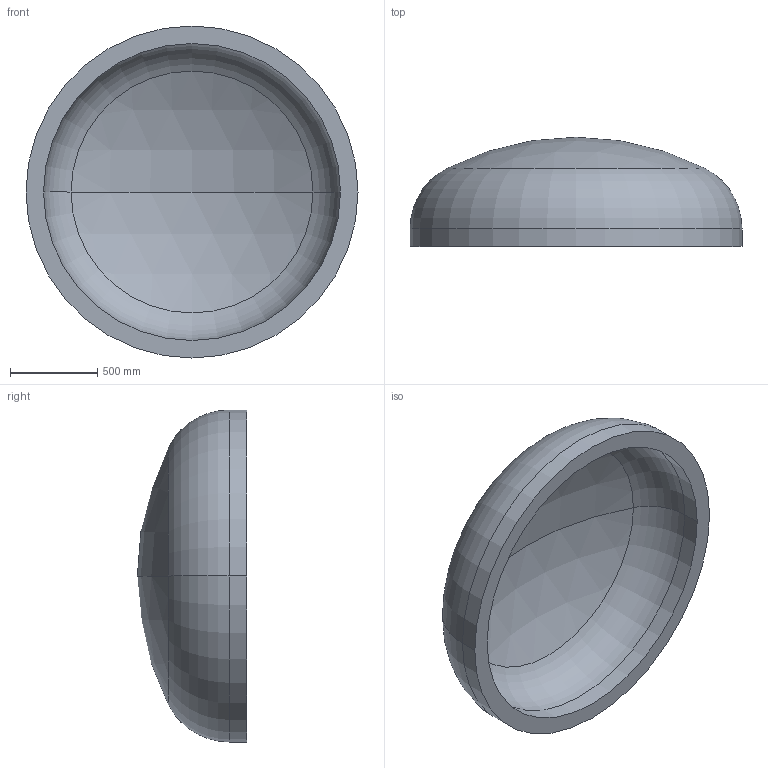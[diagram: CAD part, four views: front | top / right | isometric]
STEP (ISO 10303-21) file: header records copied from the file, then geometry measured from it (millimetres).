
FILE_DESCRIPTION (( 'STEP AP203' ), '1' );
FILE_NAME ('DIN 28013 Korbbogenform_-_Boden DIN 28013 - 1900 x 100 - I - s=100.step', '2016-07-01T13:25:25', ( '' ), ( '' ), 'SwSTEP 2.0', 'SolidWorks 2013', '' );
FILE_SCHEMA (( 'CONFIG_CONTROL_DESIGN' ));
Length unit declared in the file: millimetre
Products named in the file (1): DIN 28013 Korbbogenform_-_Boden DIN 28013 - 1900 x 100 - I - s=100
Bounding box: 1900 x 624.87 x 1900 mm (x, y, z)
Volume: 422935278.7 mm3; surface area: 9045134 mm2
Topology: 1 solids, 1 shells, 13 faces, 24 edges, 14 vertices
Faces by surface type: torus 4, cylinder 4, sphere 4, plane 1
Entity records: 407 total; most frequent: DIRECTION 72, CARTESIAN_POINT 52, ORIENTED_EDGE 48, AXIS2_PLACEMENT_3D 34, EDGE_CURVE 24, CIRCLE 20, EDGE_LOOP 14, VERTEX_POINT 14
